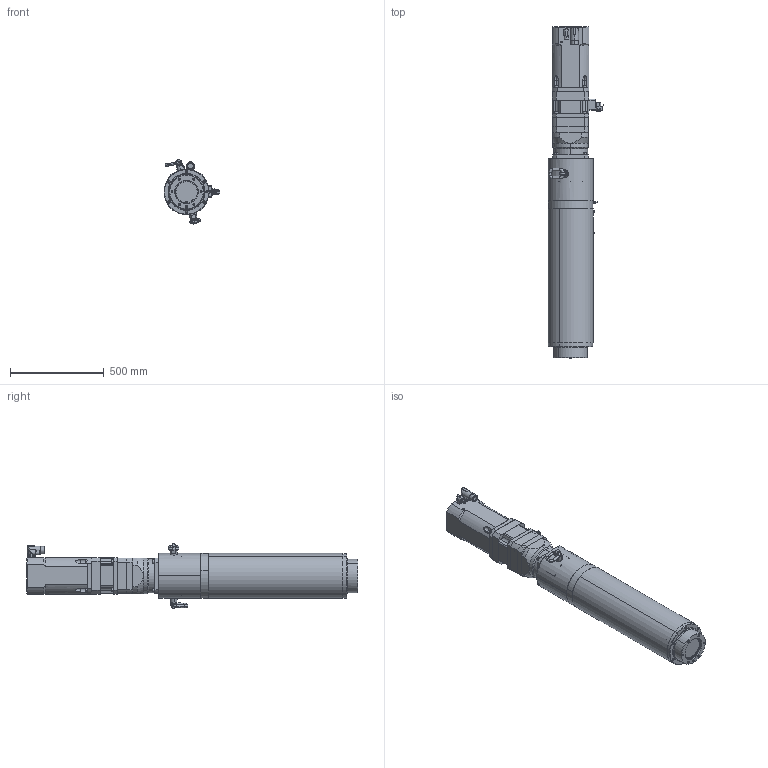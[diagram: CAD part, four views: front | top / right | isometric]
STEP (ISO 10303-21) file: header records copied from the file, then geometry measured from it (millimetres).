
FILE_DESCRIPTION (( 'STEP AP214' ), '1' );
FILE_NAME ('RLWIK200D-035-010SG0.STEP', '2023-04-06T06:26:21', ( '' ), ( '' ), 'SwSTEP 2.0', 'SolidWorks 2021', '' );
FILE_SCHEMA (( 'AUTOMOTIVE_DESIGN' ));
Length unit declared in the file: millimetre
Products named in the file (1): RLWIK200D-035-010SG0
Bounding box: 298.39 x 1771.5 x 344.22 mm (x, y, z)
Surface area: 3417134.4 mm2 (no closed solid volume)
Topology: 0 solids, 43 shells, 1657 faces, 3961 edges, 2412 vertices
Faces by surface type: cylinder 676, plane 613, cone 260, torus 102, bspline 6
Entity records: 67943 total; most frequent: CARTESIAN_POINT 10705, DIRECTION 8588, ORIENTED_EDGE 7602, EDGE_CURVE 3807, AXIS2_PLACEMENT_3D 3361, VERTEX_POINT 2412, EDGE_LOOP 1943, LINE 1866
